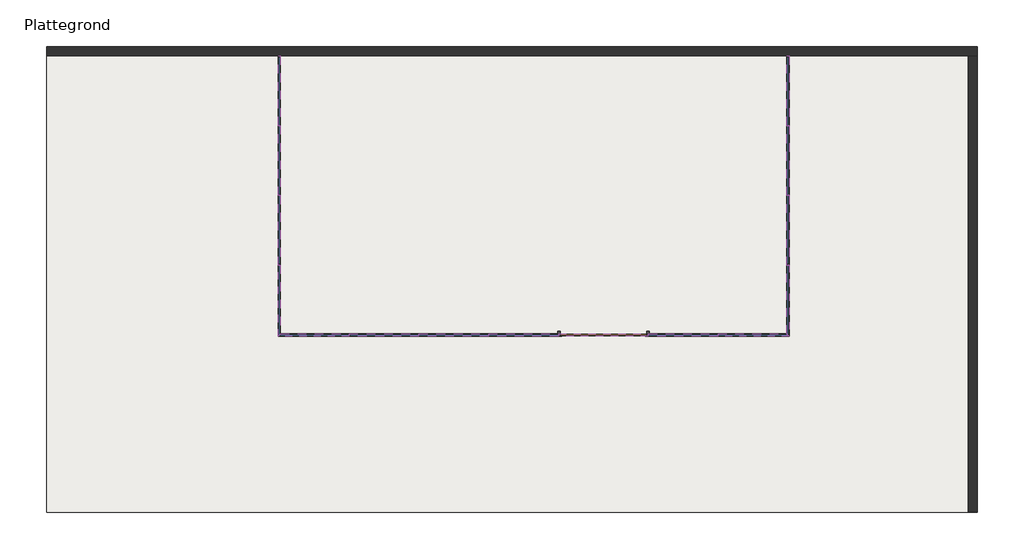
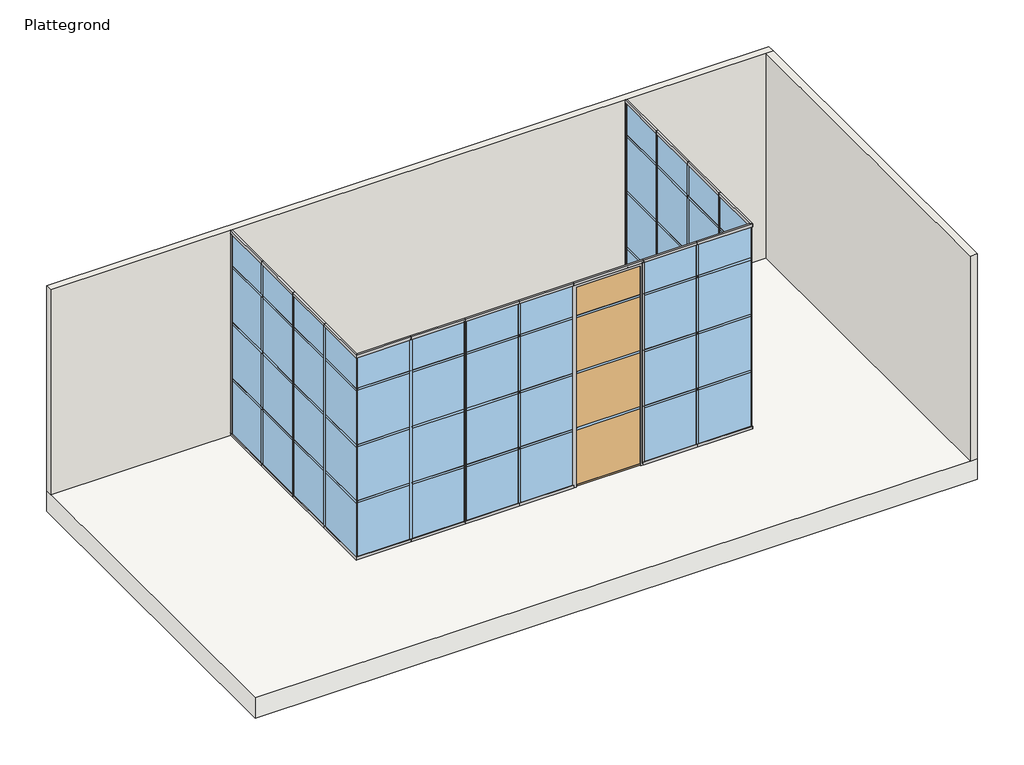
# One storey: 32 members, 29 windows, 2 walls, 1 door, 1 slab.
"""IFC4 building model written with IfcOpenShell, lengths in millimetres."""

from ifc_helpers import new_model, si_unit, frame, origin, origin_with_axes, place, context, project, spatial, polyline, outline, extrude, faceted_brep, transform, mapped, element, save
from components import door_98ff0f37, member_32_im_005_hgs_32_im_005_hgs_3a7d235a, rectangular_mullion_ccb339f7, rectangular_mullion_8ea182ef, rectangular_mullion_9d4a5aa8, rectangular_mullion_2450aa11, rectangular_mullion_e158b8b9, rectangular_mullion_edcf2523, rectangular_mullion_f6220092, rectangular_mullion_95f8c3c7, rectangular_mullion_288d5927, rectangular_mullion_41da4477, window_dd9e6272, window_eb90fcc1, window_1ea9db38, window_64f03e5b, window_2bc96638, window_8e28edf6, window_b0218697, window_32_im_002_cf_32_im_002_cf_1x4_72c7ee55, window_32_im_002_cf_32_im_002_cf_1x4_77d960d4, window_32_im_002_cf_32_im_002_cf_1x4_a56874b4, window_32_im_002_cf_32_im_002_cf_1x4_2188cdbe, window_32_im_002_cf_32_im_002_cf_1x4_8f304ec4, window_32_im_002_cf_32_im_002_cf_1x4_97abe2d1

model = new_model("IFC4")

# Units and contexts
model_context = context("Model", 3, world=origin())
ifc_project = project(units=[si_unit("LENGTHUNIT", "METRE", prefix="MILLI")], contexts=[model_context])

# Site, building, storey
site = spatial("IfcSite", under=ifc_project)
building = spatial("IfcBuilding", under=site)
storey = spatial("IfcBuildingStorey", under=building, Name="Plattegrond", Elevation=0.0)

# Door
placement = place(None, origin())
door_shape = door_98ff0f37(model_context)
element("IfcDoor", 1, ObjectType="32_IM_deurpaneel_CF : 32_IM_deurpaneel_R_CF_1x4", at=placement, inside=storey, context=model_context, shape_type="MappedRepresentation", body=[
    mapped(door_shape, transform((5821.9353409, 2130.0863222, 0.0), x_axis=(1.0, 0.0, 0.0), y_axis=(0.0, 1.0, 0.0), z_axis=(0.0, 0.0, 1.0))),
])

# Members
member_32_im_005_hgs_32_im_005_hgs_shape = member_32_im_005_hgs_32_im_005_hgs_3a7d235a(model_context)
element("IfcMember", 2, ObjectType="32_IM_005_HGS : 32_IM_005_HGS", at=placement, inside=storey, context=model_context, shape_type="MappedRepresentation", body=[
    mapped(member_32_im_005_hgs_32_im_005_hgs_shape, transform((5821.9353409, 2127.5863222, 1485.5), x_axis=(0.0, 0.0, -1.0), y_axis=(1.0, 0.0, 0.0), z_axis=(0.0, -1.0, 0.0))),
])
rectangular_mullion_shape = rectangular_mullion_ccb339f7(model_context)
element("IfcMember", 3, ObjectType="Rectangular Mullion : 22_IM_CF_DET1_boven_40mm", at=placement, inside=storey, context=model_context, shape_type="MappedRepresentation", body=[
    mapped(rectangular_mullion_shape, transform((2339.9353409, 4377.5863219, 3000.0), x_axis=(0.0, 0.0, 1.0), y_axis=(-1.0, 0.0, 0.0), z_axis=(0.0, -1.0, 0.0))),
])
rectangular_mullion_2_shape = rectangular_mullion_8ea182ef(model_context)
element("IfcMember", 4, ObjectType="Rectangular Mullion : 22_IM_CF_DET1_boven_40mm", at=placement, inside=storey, context=model_context, shape_type="MappedRepresentation", body=[
    mapped(rectangular_mullion_2_shape, transform((2339.9353409, 3627.5863219, 3000.0), x_axis=(0.0, 0.0, 1.0), y_axis=(-1.0, 0.0, 0.0), z_axis=(0.0, -1.0, 0.0))),
])
element("IfcMember", 5, ObjectType="Rectangular Mullion : 22_IM_CF_DET1_boven_40mm", at=placement, inside=storey, context=model_context, shape_type="MappedRepresentation", body=[
    mapped(rectangular_mullion_2_shape, transform((2339.9353409, 2877.5863219, 3000.0), x_axis=(0.0, 0.0, 1.0), y_axis=(-1.0, 0.0, 0.0), z_axis=(0.0, -1.0, 0.0))),
])
element("IfcMember", 6, ObjectType="Rectangular Mullion : 22_IM_CF_DET1_boven_40mm", at=placement, inside=storey, context=model_context, shape_type="MappedRepresentation", body=[
    mapped(rectangular_mullion_2_shape, transform((3839.9353409, 2127.5863222, 3000.0), x_axis=(0.0, 0.0, 1.0), y_axis=(0.0, -1.0, 0.0), z_axis=(1.0, 0.0, 0.0))),
])
element("IfcMember", 7, ObjectType="Rectangular Mullion : 22_IM_CF_DET1_boven_40mm", at=placement, inside=storey, context=model_context, shape_type="MappedRepresentation", body=[
    mapped(rectangular_mullion_2_shape, transform((4589.9353409, 2127.5863222, 3000.0), x_axis=(0.0, 0.0, 1.0), y_axis=(0.0, -1.0, 0.0), z_axis=(1.0, 0.0, 0.0))),
])
element("IfcMember", 8, ObjectType="Rectangular Mullion : 22_IM_CF_DET1_boven_40mm", at=placement, inside=storey, context=model_context, shape_type="MappedRepresentation", body=[
    mapped(rectangular_mullion_2_shape, transform((5339.9353409, 2127.5863222, 3000.0), x_axis=(0.0, 0.0, 1.0), y_axis=(0.0, -1.0, 0.0), z_axis=(1.0, 0.0, 0.0))),
])
element("IfcMember", 9, ObjectType="Rectangular Mullion : 22_IM_CF_DET1_boven_40mm", at=placement, inside=storey, context=model_context, shape_type="MappedRepresentation", body=[
    mapped(rectangular_mullion_2_shape, transform((7053.9353409, 2127.5863222, 3000.0), x_axis=(0.0, 0.0, 1.0), y_axis=(0.0, -1.0, 0.0), z_axis=(1.0, 0.0, 0.0))),
])
element("IfcMember", 10, ObjectType="Rectangular Mullion : 22_IM_CF_DET1_boven_40mm", at=placement, inside=storey, context=model_context, shape_type="MappedRepresentation", body=[
    mapped(rectangular_mullion_2_shape, transform((7803.9353409, 3627.5863222, 3000.0), x_axis=(0.0, 0.0, 1.0), y_axis=(1.0, 0.0, 0.0), z_axis=(0.0, 1.0, 0.0))),
])
element("IfcMember", 11, ObjectType="Rectangular Mullion : 22_IM_CF_DET1_boven_40mm", at=placement, inside=storey, context=model_context, shape_type="MappedRepresentation", body=[
    mapped(rectangular_mullion_2_shape, transform((7803.9353409, 4377.5863222, 3000.0), x_axis=(0.0, 0.0, 1.0), y_axis=(1.0, 0.0, 0.0), z_axis=(0.0, 1.0, 0.0))),
])
rectangular_mullion_3_shape = rectangular_mullion_9d4a5aa8(model_context)
element("IfcMember", 12, ObjectType="Rectangular Mullion : 22_IM_CF_DET2_onder_40mm", at=placement, inside=storey, context=model_context, shape_type="MappedRepresentation", body=[
    mapped(rectangular_mullion_3_shape, transform((2339.9353409, 5127.5863222, 0.0), x_axis=(0.0, 0.0, -1.0), y_axis=(-1.0, 0.0, 0.0), z_axis=(0.0, 1.0, 0.0))),
])
rectangular_mullion_4_shape = rectangular_mullion_2450aa11(model_context)
element("IfcMember", 13, ObjectType="Rectangular Mullion : 22_IM_CF_DET2_onder_40mm", at=placement, inside=storey, context=model_context, shape_type="MappedRepresentation", body=[
    mapped(rectangular_mullion_4_shape, transform((2339.9353409, 4377.5863219, 0.0), x_axis=(0.0, 0.0, -1.0), y_axis=(-1.0, 0.0, 0.0), z_axis=(0.0, 1.0, 0.0))),
])
element("IfcMember", 14, ObjectType="Rectangular Mullion : 22_IM_CF_DET2_onder_40mm", at=placement, inside=storey, context=model_context, shape_type="MappedRepresentation", body=[
    mapped(rectangular_mullion_4_shape, transform((2339.9353409, 3627.5863219, 0.0), x_axis=(0.0, 0.0, -1.0), y_axis=(-1.0, 0.0, 0.0), z_axis=(0.0, 1.0, 0.0))),
])
element("IfcMember", 15, ObjectType="Rectangular Mullion : 22_IM_CF_DET2_onder_40mm", at=placement, inside=storey, context=model_context, shape_type="MappedRepresentation", body=[
    mapped(rectangular_mullion_4_shape, transform((3089.9353409, 2127.5863222, 0.0), x_axis=(0.0, 0.0, -1.0), y_axis=(0.0, -1.0, 0.0), z_axis=(-1.0, 0.0, 0.0))),
])
element("IfcMember", 16, ObjectType="Rectangular Mullion : 22_IM_CF_DET2_onder_40mm", at=placement, inside=storey, context=model_context, shape_type="MappedRepresentation", body=[
    mapped(rectangular_mullion_4_shape, transform((3839.9353409, 2127.5863222, 0.0), x_axis=(0.0, 0.0, -1.0), y_axis=(0.0, -1.0, 0.0), z_axis=(-1.0, 0.0, 0.0))),
])
element("IfcMember", 17, ObjectType="Rectangular Mullion : 22_IM_CF_DET2_onder_40mm", at=placement, inside=storey, context=model_context, shape_type="MappedRepresentation", body=[
    mapped(rectangular_mullion_4_shape, transform((7803.9353409, 2877.5863222, 0.0), x_axis=(0.0, 0.0, -1.0), y_axis=(1.0, 0.0, 0.0), z_axis=(0.0, -1.0, 0.0))),
])
element("IfcMember", 18, ObjectType="Rectangular Mullion : 22_IM_CF_DET2_onder_40mm", at=placement, inside=storey, context=model_context, shape_type="MappedRepresentation", body=[
    mapped(rectangular_mullion_4_shape, transform((7803.9353409, 3627.5863222, 0.0), x_axis=(0.0, 0.0, -1.0), y_axis=(1.0, 0.0, 0.0), z_axis=(0.0, -1.0, 0.0))),
])
rectangular_mullion_5_shape = rectangular_mullion_e158b8b9(model_context)
element("IfcMember", 19, ObjectType="Rectangular Mullion : 22_IM_CF_38_MAS", at=placement, inside=storey, context=model_context, shape_type="MappedRepresentation", body=[
    mapped(rectangular_mullion_5_shape, transform((2339.9353409, 5127.5863222, 2959.0), x_axis=(0.0, 1.0, 0.0), y_axis=(-1.0, 0.0, 0.0), z_axis=(0.0, 0.0, 1.0))),
])
rectangular_mullion_6_shape = rectangular_mullion_edcf2523(model_context)
element("IfcMember", 20, ObjectType="Rectangular Mullion : 22_IM_CF_DET1_boven_40mm", at=placement, inside=storey, context=model_context, shape_type="MappedRepresentation", body=[
    mapped(rectangular_mullion_6_shape, transform((2339.9353409, 2127.5863222, 3000.0), x_axis=(0.0, 0.0, 1.0), y_axis=(-1.0, 0.0, 0.0), z_axis=(0.0, -1.0, 0.0))),
])
element("IfcMember", 21, ObjectType="Rectangular Mullion : 22_IM_CF_DET1_boven_40mm", at=placement, inside=storey, context=model_context, shape_type="MappedRepresentation", body=[
    mapped(rectangular_mullion_6_shape, transform((7803.9353409, 2127.5863222, 3000.0), x_axis=(0.0, 0.0, 1.0), y_axis=(0.0, -1.0, 0.0), z_axis=(1.0, 0.0, 0.0))),
])
rectangular_mullion_7_shape = rectangular_mullion_f6220092(model_context)
element("IfcMember", 22, ObjectType="Rectangular Mullion : 22_IM_CF_DET1_boven_40mm", at=placement, inside=storey, context=model_context, shape_type="MappedRepresentation", body=[
    mapped(rectangular_mullion_7_shape, transform((3089.9353409, 2127.5863222, 3000.0), x_axis=(0.0, 0.0, 1.0), y_axis=(0.0, -1.0, 0.0), z_axis=(1.0, 0.0, 0.0))),
])
element("IfcMember", 23, ObjectType="Rectangular Mullion : 22_IM_CF_DET1_boven_40mm", at=placement, inside=storey, context=model_context, shape_type="MappedRepresentation", body=[
    mapped(rectangular_mullion_7_shape, transform((7803.9353409, 2877.5863222, 3000.0), x_axis=(0.0, 0.0, 1.0), y_axis=(1.0, 0.0, 0.0), z_axis=(0.0, 1.0, 0.0))),
])
rectangular_mullion_8_shape = rectangular_mullion_95f8c3c7(model_context)
element("IfcMember", 24, ObjectType="Rectangular Mullion : 22_IM_CF_DET2_onder_40mm", at=placement, inside=storey, context=model_context, shape_type="MappedRepresentation", body=[
    mapped(rectangular_mullion_8_shape, transform((2339.9353409, 2877.5863219, 0.0), x_axis=(0.0, 0.0, -1.0), y_axis=(-1.0, 0.0, 0.0), z_axis=(0.0, 1.0, 0.0))),
])
element("IfcMember", 25, ObjectType="Rectangular Mullion : 22_IM_CF_DET2_onder_40mm", at=placement, inside=storey, context=model_context, shape_type="MappedRepresentation", body=[
    mapped(rectangular_mullion_8_shape, transform((7053.9353409, 2127.5863222, 0.0), x_axis=(0.0, 0.0, -1.0), y_axis=(0.0, -1.0, 0.0), z_axis=(-1.0, 0.0, 0.0))),
])
rectangular_mullion_9_shape = rectangular_mullion_288d5927(model_context)
element("IfcMember", 26, ObjectType="Rectangular Mullion : 22_IM_CF_DET2_onder_40mm", at=placement, inside=storey, context=model_context, shape_type="MappedRepresentation", body=[
    mapped(rectangular_mullion_9_shape, transform((2339.9353409, 2127.5863222, 0.0), x_axis=(0.0, 0.0, -1.0), y_axis=(0.0, -1.0, 0.0), z_axis=(-1.0, 0.0, 0.0))),
])
element("IfcMember", 27, ObjectType="Rectangular Mullion : 22_IM_CF_DET2_onder_40mm", at=placement, inside=storey, context=model_context, shape_type="MappedRepresentation", body=[
    mapped(rectangular_mullion_9_shape, transform((7803.9353409, 2127.5863222, 0.0), x_axis=(0.0, 0.0, -1.0), y_axis=(1.0, 0.0, 0.0), z_axis=(0.0, -1.0, 0.0))),
])
rectangular_mullion_10_shape = rectangular_mullion_41da4477(model_context)
element("IfcMember", 28, ObjectType="Rectangular Mullion : 22_IM_CF_DET1_boven_40mm", at=placement, inside=storey, context=model_context, shape_type="MappedRepresentation", body=[
    mapped(rectangular_mullion_10_shape, transform((6303.9353409, 2127.5863222, 3000.0), x_axis=(0.0, 0.0, 1.0), y_axis=(0.0, -1.0, 0.0), z_axis=(1.0, 0.0, 0.0))),
])
element("IfcMember", 29, ObjectType="Rectangular Mullion : 22_IM_CF_DET2_onder_40mm", at=placement, inside=storey, context=model_context, shape_type="MappedRepresentation", body=[
    mapped(rectangular_mullion_4_shape, transform((4589.9353409, 2127.5863222, 0.0), x_axis=(0.0, 0.0, -1.0), y_axis=(0.0, -1.0, 0.0), z_axis=(-1.0, 0.0, 0.0))),
])
element("IfcMember", 30, ObjectType="Rectangular Mullion : 22_IM_CF_DET2_onder_40mm", at=placement, inside=storey, context=model_context, shape_type="MappedRepresentation", body=[
    mapped(rectangular_mullion_4_shape, transform((6303.9353409, 2127.5863222, 0.0), x_axis=(0.0, 0.0, -1.0), y_axis=(0.0, -1.0, 0.0), z_axis=(-1.0, 0.0, 0.0))),
])
element("IfcMember", 31, ObjectType="Rectangular Mullion : 22_IM_CF_DET1_boven_40mm", at=placement, inside=storey, context=model_context, shape_type="MappedRepresentation", body=[
    mapped(rectangular_mullion_2_shape, transform((7803.9353409, 5127.5863222, 3000.0), x_axis=(0.0, 0.0, 1.0), y_axis=(1.0, 0.0, 0.0), z_axis=(0.0, 1.0, 0.0))),
])
element("IfcMember", 32, ObjectType="Rectangular Mullion : 22_IM_CF_DET2_onder_40mm", at=placement, inside=storey, context=model_context, shape_type="MappedRepresentation", body=[
    mapped(rectangular_mullion_4_shape, transform((7803.9353409, 4377.5863222, 0.0), x_axis=(0.0, 0.0, -1.0), y_axis=(1.0, 0.0, 0.0), z_axis=(0.0, -1.0, 0.0))),
])
element("IfcMember", 33, ObjectType="Rectangular Mullion : 22_IM_CF_38_MAS_sp", at=placement, inside=storey, context=model_context, shape_type="MappedRepresentation", body=[
    mapped(rectangular_mullion_5_shape, transform((7803.9353409, 5127.5863222, 42.0), x_axis=(0.0, 1.0, 0.0), y_axis=(1.0, 0.0, 0.0), z_axis=(0.0, 0.0, -1.0))),
])

# Slab
element("IfcSlab", 34, ObjectType="23_FL_generiek 300", at=placement, inside=storey, context=model_context, shape_type="SweptSolid", body=[
    extrude(outline(polyline([(9839.9353409, 227.5863222), (-160.0646591, 227.5863222), (-160.0646591, 5227.5863222), (9839.9353409, 5227.5863222), (9839.9353409, 227.5863222)])), frame((0.0, 0.0, -300.0), z_axis=(0.0, 0.0, 1.0), x_axis=(1.0, 0.0, 0.0)), (0.0, 0.0, 1.0), 300.0),
])

# Walls
element("IfcWall", 35, ObjectType="20_WA_ontwerpwand 100", at=placement, inside=storey, context=model_context, shape_type="Brep", body=[
    faceted_brep([(-160.0646591, 5127.5863222, 0.0), (9739.9353409, 5127.5863222, 0.0), (9839.9353409, 5127.5863222, 0.0), (9839.9353409, 5127.5863222, 3000.0), (9739.9353409, 5127.5863222, 3000.0), (-160.0646591, 5127.5863222, 3000.0), (-160.0646591, 5227.5863222, 0.0), (-160.0646591, 5227.5863222, 3000.0), (9839.9353409, 5227.5863222, 3000.0), (9839.9353409, 5227.5863222, 0.0)], [[[0, 1, 2, 3, 4, 5]], [[6, 7, 8, 9]], [[2, 1, 0, 6, 9]], [[5, 4, 3, 8, 7]], [[0, 5, 7, 6]], [[3, 2, 9, 8]]]),
])
element("IfcWall", 36, ObjectType="20_WA_ontwerpwand 100", at=placement, inside=storey, context=model_context, shape_type="SweptSolid", body=[
    extrude(outline(polyline([(9739.9353409, 227.5863222), (9739.9353409, 5127.5863222), (9839.9353409, 5127.5863222), (9839.9353409, 227.5863222), (9739.9353409, 227.5863222)])), origin_with_axes(), (0.0, 0.0, 1.0), 3000.0),
])

# Windows
window_shape = window_dd9e6272(model_context)
element("IfcWindow", 37, ObjectType="32_IM_CF_verdeling_roedes : 32_IM_CF_verdeling_roedes_1x4", at=placement, inside=storey, context=model_context, shape_type="MappedRepresentation", body=[
    mapped(window_shape, transform((2339.9353409, 4744.086322, 26.0), x_axis=(0.0, -1.0, 0.0), y_axis=(1.0, 0.0, 0.0), z_axis=(0.0, 0.0, 1.0))),
])
element("IfcWindow", 38, ObjectType="32_IM_CF_verdeling_roedes : 32_IM_CF_verdeling_roedes_1x4", at=placement, inside=storey, context=model_context, shape_type="MappedRepresentation", body=[
    mapped(window_shape, transform((7803.9353409, 4744.0863222, 26.0), x_axis=(0.0, 1.0, 0.0), y_axis=(-1.0, 0.0, 0.0), z_axis=(0.0, 0.0, 1.0))),
])
window_2_shape = window_eb90fcc1(model_context)
element("IfcWindow", 39, ObjectType="32_IM_CF_verdeling_roedes : 32_IM_CF_verdeling_roedes_1x4", at=placement, inside=storey, context=model_context, shape_type="MappedRepresentation", body=[
    mapped(window_2_shape, transform((2339.9353409, 4002.5863219, 26.0), x_axis=(0.0, -1.0, 0.0), y_axis=(1.0, 0.0, 0.0), z_axis=(0.0, 0.0, 1.0))),
])
element("IfcWindow", 40, ObjectType="32_IM_CF_verdeling_roedes : 32_IM_CF_verdeling_roedes_1x4", at=placement, inside=storey, context=model_context, shape_type="MappedRepresentation", body=[
    mapped(window_2_shape, transform((2339.9353409, 3252.5863219, 26.0), x_axis=(0.0, -1.0, 0.0), y_axis=(1.0, 0.0, 0.0), z_axis=(0.0, 0.0, 1.0))),
])
element("IfcWindow", 41, ObjectType="32_IM_CF_verdeling_roedes : 32_IM_CF_verdeling_roedes_1x4", at=placement, inside=storey, context=model_context, shape_type="MappedRepresentation", body=[
    mapped(window_2_shape, transform((3464.9353409, 2127.5863222, 26.0), x_axis=(1.0, 0.0, 0.0), y_axis=(0.0, 1.0, 0.0), z_axis=(0.0, 0.0, 1.0))),
])
element("IfcWindow", 42, ObjectType="32_IM_CF_verdeling_roedes : 32_IM_CF_verdeling_roedes_1x4", at=placement, inside=storey, context=model_context, shape_type="MappedRepresentation", body=[
    mapped(window_2_shape, transform((4214.9353409, 2127.5863222, 26.0), x_axis=(1.0, 0.0, 0.0), y_axis=(0.0, 1.0, 0.0), z_axis=(0.0, 0.0, 1.0))),
])
element("IfcWindow", 43, ObjectType="32_IM_CF_verdeling_roedes : 32_IM_CF_verdeling_roedes_1x4", at=placement, inside=storey, context=model_context, shape_type="MappedRepresentation", body=[
    mapped(window_2_shape, transform((4964.9353409, 2127.5863222, 26.0), x_axis=(1.0, 0.0, 0.0), y_axis=(0.0, 1.0, 0.0), z_axis=(0.0, 0.0, 1.0))),
])
element("IfcWindow", 44, ObjectType="32_IM_CF_verdeling_roedes : 32_IM_CF_verdeling_roedes_1x4", at=placement, inside=storey, context=model_context, shape_type="MappedRepresentation", body=[
    mapped(window_2_shape, transform((6678.9353409, 2127.5863222, 26.0), x_axis=(1.0, 0.0, 0.0), y_axis=(0.0, 1.0, 0.0), z_axis=(0.0, 0.0, 1.0))),
])
element("IfcWindow", 45, ObjectType="32_IM_CF_verdeling_roedes : 32_IM_CF_verdeling_roedes_1x4", at=placement, inside=storey, context=model_context, shape_type="MappedRepresentation", body=[
    mapped(window_2_shape, transform((7803.9353409, 3252.5863222, 26.0), x_axis=(0.0, 1.0, 0.0), y_axis=(-1.0, 0.0, 0.0), z_axis=(0.0, 0.0, 1.0))),
])
element("IfcWindow", 46, ObjectType="32_IM_CF_verdeling_roedes : 32_IM_CF_verdeling_roedes_1x4", at=placement, inside=storey, context=model_context, shape_type="MappedRepresentation", body=[
    mapped(window_2_shape, transform((7803.9353409, 4002.5863222, 26.0), x_axis=(0.0, 1.0, 0.0), y_axis=(-1.0, 0.0, 0.0), z_axis=(0.0, 0.0, 1.0))),
])
window_3_shape = window_1ea9db38(model_context)
element("IfcWindow", 47, ObjectType="32_IM_CF_verdeling_roedes : 32_IM_CF_verdeling_roedes_1x4", at=placement, inside=storey, context=model_context, shape_type="MappedRepresentation", body=[
    mapped(window_3_shape, transform((2339.9353409, 2499.586322, 26.0), x_axis=(0.0, -1.0, 0.0), y_axis=(1.0, 0.0, 0.0), z_axis=(0.0, 0.0, 1.0))),
])
window_4_shape = window_64f03e5b(model_context)
element("IfcWindow", 48, ObjectType="32_IM_CF_verdeling_roedes : 32_IM_CF_verdeling_roedes_1x4", at=placement, inside=storey, context=model_context, shape_type="MappedRepresentation", body=[
    mapped(window_4_shape, transform((2718.9353409, 2127.5863222, 26.0), x_axis=(-1.0, 0.0, 0.0), y_axis=(0.0, -1.0, 0.0), z_axis=(0.0, 0.0, 1.0))),
])
window_5_shape = window_2bc96638(model_context)
element("IfcWindow", 49, ObjectType="32_IM_CF_verdeling_roedes : 32_IM_CF_verdeling_roedes_1x4", at=placement, inside=storey, context=model_context, shape_type="MappedRepresentation", body=[
    mapped(window_5_shape, transform((7424.9353409, 2127.5863222, 26.0), x_axis=(1.0, 0.0, 0.0), y_axis=(0.0, 1.0, 0.0), z_axis=(0.0, 0.0, 1.0))),
])
window_6_shape = window_8e28edf6(model_context)
element("IfcWindow", 50, ObjectType="32_IM_CF_verdeling_roedes : 32_IM_CF_verdeling_roedes_1x4", at=placement, inside=storey, context=model_context, shape_type="MappedRepresentation", body=[
    mapped(window_6_shape, transform((7803.9353409, 2499.5863222, 26.0), x_axis=(0.0, -1.0, 0.0), y_axis=(1.0, 0.0, 0.0), z_axis=(0.0, 0.0, 1.0))),
])
window_7_shape = window_b0218697(model_context)
element("IfcWindow", 51, ObjectType="32_IM_CF_verdeling_roedes : 32_IM_CF_verdeling_roedes_1x4", at=placement, inside=storey, context=model_context, shape_type="MappedRepresentation", body=[
    mapped(window_7_shape, transform((5821.9353409, 2130.0863222, 10.0), x_axis=(1.0, 0.0, 0.0), y_axis=(0.0, 1.0, 0.0), z_axis=(0.0, 0.0, 1.0))),
])
window_32_im_002_cf_32_im_002_cf_1x4_shape = window_32_im_002_cf_32_im_002_cf_1x4_72c7ee55(model_context)
element("IfcWindow", 52, ObjectType="32_IM_002_CF : 32_IM_002_CF_1x4", at=placement, inside=storey, context=model_context, shape_type="MappedRepresentation", body=[
    mapped(window_32_im_002_cf_32_im_002_cf_1x4_shape, transform((2339.9353409, 4744.086322, 26.0), x_axis=(0.0, -1.0, 0.0), y_axis=(1.0, 0.0, 0.0), z_axis=(0.0, 0.0, 1.0))),
])
element("IfcWindow", 53, ObjectType="32_IM_002_CF : 32_IM_002_CF_1x4", at=placement, inside=storey, context=model_context, shape_type="MappedRepresentation", body=[
    mapped(window_32_im_002_cf_32_im_002_cf_1x4_shape, transform((7803.9353409, 4744.0863222, 26.0), x_axis=(0.0, 1.0, 0.0), y_axis=(-1.0, 0.0, 0.0), z_axis=(0.0, 0.0, 1.0))),
])
window_32_im_002_cf_32_im_002_cf_1x4_2_shape = window_32_im_002_cf_32_im_002_cf_1x4_77d960d4(model_context)
element("IfcWindow", 54, ObjectType="32_IM_002_CF : 32_IM_002_CF_1x4", at=placement, inside=storey, context=model_context, shape_type="MappedRepresentation", body=[
    mapped(window_32_im_002_cf_32_im_002_cf_1x4_2_shape, transform((2339.9353409, 4002.5863219, 26.0), x_axis=(0.0, -1.0, 0.0), y_axis=(1.0, 0.0, 0.0), z_axis=(0.0, 0.0, 1.0))),
])
element("IfcWindow", 55, ObjectType="32_IM_002_CF : 32_IM_002_CF_1x4", at=placement, inside=storey, context=model_context, shape_type="MappedRepresentation", body=[
    mapped(window_32_im_002_cf_32_im_002_cf_1x4_2_shape, transform((2339.9353409, 3252.5863219, 26.0), x_axis=(0.0, -1.0, 0.0), y_axis=(1.0, 0.0, 0.0), z_axis=(0.0, 0.0, 1.0))),
])
element("IfcWindow", 56, ObjectType="32_IM_002_CF : 32_IM_002_CF_1x4", at=placement, inside=storey, context=model_context, shape_type="MappedRepresentation", body=[
    mapped(window_32_im_002_cf_32_im_002_cf_1x4_2_shape, transform((3464.9353409, 2127.5863222, 26.0), x_axis=(1.0, 0.0, 0.0), y_axis=(0.0, 1.0, 0.0), z_axis=(0.0, 0.0, 1.0))),
])
element("IfcWindow", 57, ObjectType="32_IM_002_CF : 32_IM_002_CF_1x4", at=placement, inside=storey, context=model_context, shape_type="MappedRepresentation", body=[
    mapped(window_32_im_002_cf_32_im_002_cf_1x4_2_shape, transform((4214.9353409, 2127.5863222, 26.0), x_axis=(1.0, 0.0, 0.0), y_axis=(0.0, 1.0, 0.0), z_axis=(0.0, 0.0, 1.0))),
])
element("IfcWindow", 58, ObjectType="32_IM_002_CF : 32_IM_002_CF_1x4", at=placement, inside=storey, context=model_context, shape_type="MappedRepresentation", body=[
    mapped(window_32_im_002_cf_32_im_002_cf_1x4_2_shape, transform((4964.9353409, 2127.5863222, 26.0), x_axis=(1.0, 0.0, 0.0), y_axis=(0.0, 1.0, 0.0), z_axis=(0.0, 0.0, 1.0))),
])
element("IfcWindow", 59, ObjectType="32_IM_002_CF : 32_IM_002_CF_1x4", at=placement, inside=storey, context=model_context, shape_type="MappedRepresentation", body=[
    mapped(window_32_im_002_cf_32_im_002_cf_1x4_2_shape, transform((6678.9353409, 2127.5863222, 26.0), x_axis=(1.0, 0.0, 0.0), y_axis=(0.0, 1.0, 0.0), z_axis=(0.0, 0.0, 1.0))),
])
element("IfcWindow", 60, ObjectType="32_IM_002_CF : 32_IM_002_CF_1x4", at=placement, inside=storey, context=model_context, shape_type="MappedRepresentation", body=[
    mapped(window_32_im_002_cf_32_im_002_cf_1x4_2_shape, transform((7803.9353409, 3252.5863222, 26.0), x_axis=(0.0, 1.0, 0.0), y_axis=(-1.0, 0.0, 0.0), z_axis=(0.0, 0.0, 1.0))),
])
element("IfcWindow", 61, ObjectType="32_IM_002_CF : 32_IM_002_CF_1x4", at=placement, inside=storey, context=model_context, shape_type="MappedRepresentation", body=[
    mapped(window_32_im_002_cf_32_im_002_cf_1x4_2_shape, transform((7803.9353409, 4002.5863222, 26.0), x_axis=(0.0, 1.0, 0.0), y_axis=(-1.0, 0.0, 0.0), z_axis=(0.0, 0.0, 1.0))),
])
window_32_im_002_cf_32_im_002_cf_1x4_3_shape = window_32_im_002_cf_32_im_002_cf_1x4_a56874b4(model_context)
element("IfcWindow", 62, ObjectType="32_IM_002_CF : 32_IM_002_CF_1x4", at=placement, inside=storey, context=model_context, shape_type="MappedRepresentation", body=[
    mapped(window_32_im_002_cf_32_im_002_cf_1x4_3_shape, transform((7424.9353409, 2127.5863222, 26.0), x_axis=(1.0, 0.0, 0.0), y_axis=(0.0, 1.0, 0.0), z_axis=(0.0, 0.0, 1.0))),
])
window_32_im_002_cf_32_im_002_cf_1x4_4_shape = window_32_im_002_cf_32_im_002_cf_1x4_2188cdbe(model_context)
element("IfcWindow", 63, ObjectType="32_IM_002_CF : 32_IM_002_CF_1x4", at=placement, inside=storey, context=model_context, shape_type="MappedRepresentation", body=[
    mapped(window_32_im_002_cf_32_im_002_cf_1x4_4_shape, transform((7803.9353409, 2499.5863222, 26.0), x_axis=(0.0, -1.0, 0.0), y_axis=(1.0, 0.0, 0.0), z_axis=(0.0, 0.0, 1.0))),
])
window_32_im_002_cf_32_im_002_cf_1x4_5_shape = window_32_im_002_cf_32_im_002_cf_1x4_8f304ec4(model_context)
element("IfcWindow", 64, ObjectType="32_IM_002_CF : 32_IM_002_CF_1x4", at=placement, inside=storey, context=model_context, shape_type="MappedRepresentation", body=[
    mapped(window_32_im_002_cf_32_im_002_cf_1x4_5_shape, transform((2718.9353409, 2127.5863222, 26.0), x_axis=(-1.0, 0.0, 0.0), y_axis=(0.0, -1.0, 0.0), z_axis=(0.0, 0.0, 1.0))),
])
window_32_im_002_cf_32_im_002_cf_1x4_6_shape = window_32_im_002_cf_32_im_002_cf_1x4_97abe2d1(model_context)
element("IfcWindow", 65, ObjectType="32_IM_002_CF : 32_IM_002_CF_1x4", at=placement, inside=storey, context=model_context, shape_type="MappedRepresentation", body=[
    mapped(window_32_im_002_cf_32_im_002_cf_1x4_6_shape, transform((2339.9353409, 2499.586322, 26.0), x_axis=(0.0, -1.0, 0.0), y_axis=(1.0, 0.0, 0.0), z_axis=(0.0, 0.0, 1.0))),
])

save(model, "model.ifc")
